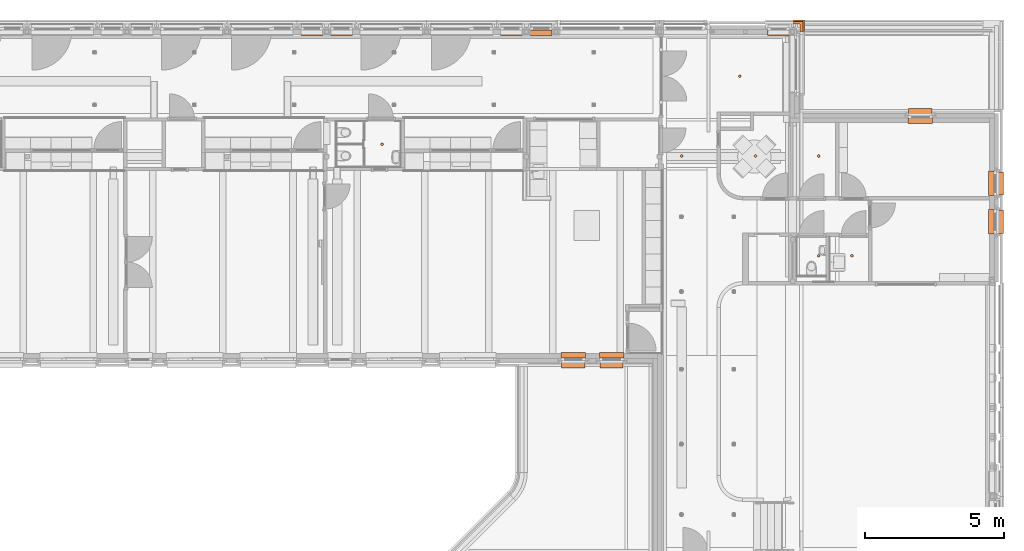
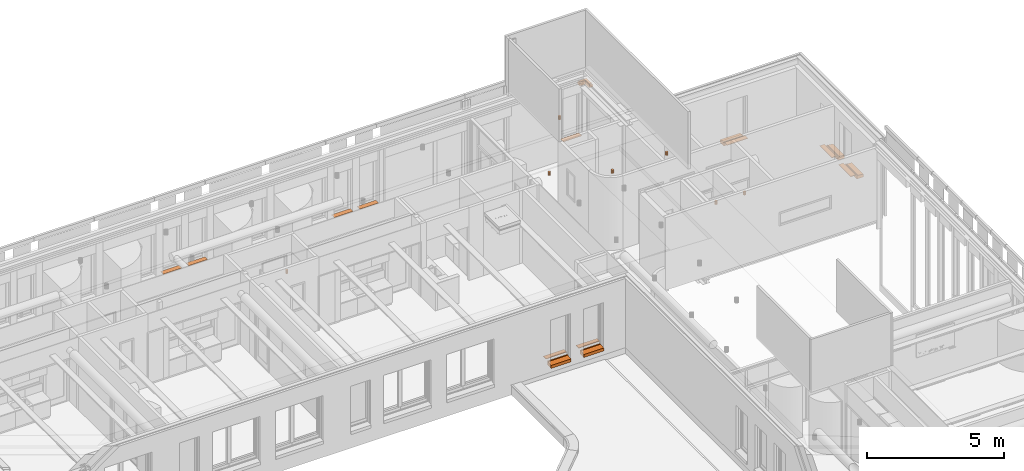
# One storey, part 125 of 128: 23 proxies.
"""IFC2X3 building model written with IfcOpenShell, lengths in millimetres."""

import ifcopenshell
import ifcopenshell.guid

model = None  # the IFC model being written
_history = None  # IfcOwnerHistory: only IFC2X3 demands one
_inside = {}  # id of a spatial element -> (the spatial element, [elements in it])
_under = {}  # id of a project, library or spatial element -> (it, [spatial elements below it])
_declared = {}  # id of a project -> (the project, [libraries it declares])
_typed = {}  # id of a type object -> (the type object, [elements of that type])
_made_of = {}  # id of a material, layer set ... -> (it, [elements and type objects made of it])


def new_model(schema):
    """Start an empty IFC model of exactly this schema.

    Asked for "IFC4X3", IfcOpenShell would pick the latest addendum, in which some entities
    have other attributes; the version numbers below select the first issue.
    IFC2X3 requires an IfcOwnerHistory on every rooted entity: one is made here for all.
    """
    global model, _history
    if schema == "IFC4X3":
        model = ifcopenshell.file(schema_version=(4, 3, 0, 0))
    else:
        model = ifcopenshell.file(schema=schema)
    _inside.clear()
    _under.clear()
    _declared.clear()
    _typed.clear()
    _made_of.clear()
    _history = None
    if model.schema == "IFC2X3":
        org = make("IfcOrganization", Name="unknown")
        user = make(
            "IfcPersonAndOrganization",
            ThePerson=make("IfcPerson", FamilyName="unknown"),
            TheOrganization=org,
        )
        app = make(
            "IfcApplication",
            ApplicationDeveloper=org,
            Version="unknown",
            ApplicationFullName="unknown",
            ApplicationIdentifier="unknown",
        )
        _history = make(
            "IfcOwnerHistory",
            OwningUser=user,
            OwningApplication=app,
            ChangeAction="ADDED",
            CreationDate=0,
        )
    return model


def make(cls, **values):
    """One entity of the class cls with the attributes given. An attribute that is None is left unset."""
    return model.create_entity(
        cls, **{name: value for name, value in values.items() if value is not None}
    )


def entity(cls, *values):
    """Any entity or typed value of the class cls, its attributes in the order of the schema. None: left unset."""
    e = model.create_entity(cls)
    for i, value in enumerate(values):
        if value is not None:
            e[i] = value
    return e


def rooted(cls, **values):
    """An entity with a GlobalId (a new one), such as an element, a storey or a relation."""
    return make(cls, GlobalId=ifcopenshell.guid.new(), OwnerHistory=_history, **values)


def si_unit(unit_type, name, prefix=None):
    """IfcSIUnit, for example si_unit("LENGTHUNIT", "METRE", prefix="MILLI")."""
    return make("IfcSIUnit", UnitType=unit_type, Prefix=prefix, Name=name)


def converted_unit(unit_type, name, factor, base, dimensions=None, offset=None):
    """IfcConversionBasedUnit, such as the inch: factor (a typed value) times the base unit."""
    return make(
        "IfcConversionBasedUnit"
        if offset is None
        else "IfcConversionBasedUnitWithOffset",
        ConversionOffset=offset,
        Dimensions=None
        if dimensions is None
        else entity("IfcDimensionalExponents", *dimensions),
        UnitType=unit_type,
        Name=name,
        ConversionFactor=make(
            "IfcMeasureWithUnit", ValueComponent=factor, UnitComponent=base
        ),
    )


def derived_unit(unit_type, elements):
    """IfcDerivedUnit: a product of units, each with its exponent."""
    return make(
        "IfcDerivedUnit",
        Elements=[
            make("IfcDerivedUnitElement", Unit=unit, Exponent=power)
            for unit, power in elements
        ],
        UnitType=unit_type,
    )


def assignment(units):
    """IfcUnitAssignment: the units of a project."""
    return None if units is None else make("IfcUnitAssignment", Units=units)


def point(xyz):
    """IfcCartesianPoint."""
    return None if xyz is None else make("IfcCartesianPoint", Coordinates=xyz)


def direction(xyz):
    """IfcDirection."""
    return None if xyz is None else make("IfcDirection", DirectionRatios=xyz)


def frame(location, z_axis=None, x_axis=None):
    """IfcAxis2Placement3D, a coordinate frame: its origin and axes. An axis left out is left unset."""
    return make(
        "IfcAxis2Placement3D",
        Location=point(location),
        Axis=direction(z_axis),
        RefDirection=direction(x_axis),
    )


def frame_2d(location, x_axis=None):
    """IfcAxis2Placement2D, a coordinate frame in the plane: its origin and x axis."""
    return make(
        "IfcAxis2Placement2D", Location=point(location), RefDirection=direction(x_axis)
    )


def origin():
    """The frame at (0, 0, 0) with its axes left unset."""
    return frame((0.0, 0.0, 0.0))


def origin_2d_with_axis():
    """The frame at (0, 0) in the plane with the x axis (1, 0) written out."""
    return frame_2d((0.0, 0.0), x_axis=(1.0, 0.0))


def place(relative_to, where):
    """IfcLocalPlacement: puts the frame where relative to a parent placement (None: the world)."""
    return make(
        "IfcLocalPlacement", PlacementRelTo=relative_to, RelativePlacement=where
    )


def context(
    kind, dimensions, precision=None, world=None, true_north=None, identifier=None
):
    """IfcGeometricRepresentationContext, for example the 3D "Model" context."""
    return make(
        "IfcGeometricRepresentationContext",
        ContextIdentifier=identifier,
        ContextType=kind,
        CoordinateSpaceDimension=dimensions,
        Precision=precision,
        WorldCoordinateSystem=world,
        TrueNorth=true_north,
    )


def subcontext(parent, identifier, kind, view, scale=None):
    """IfcGeometricRepresentationSubContext, for example "Body" below "Model"."""
    return make(
        "IfcGeometricRepresentationSubContext",
        ContextIdentifier=identifier,
        ContextType=kind,
        ParentContext=parent,
        TargetScale=scale,
        TargetView=view,
    )


def project(units=None, contexts=None):
    """IfcProject with its units and contexts."""
    return rooted(
        "IfcProject",
        Name="project",
        RepresentationContexts=contexts,
        UnitsInContext=assignment(units),
    )


def spatial(cls, under=None, at=None, **own):
    """A site, building, storey or space (cls), placed at a placement, below another one or the project."""
    s = rooted(cls, ObjectPlacement=at, **own)
    if under is not None:
        _under.setdefault(under.id(), (under, []))[1].append(s)
    return s


def polyline(points):
    """IfcPolyline through the points."""
    return make("IfcPolyline", Points=[point(p) for p in points])


def circle_curve(where, radius):
    """IfcCircle in the frame where."""
    return make("IfcCircle", Position=where, Radius=radius)


def parameter(value):
    """IfcParameterValue: where a trimmed curve begins or ends, as a parameter of its basis curve."""
    return model.create_entity("IfcParameterValue", value)


def trimmed(basis, trim1, trim2, sense, master):
    """IfcTrimmedCurve: the piece of a basis curve between two trims."""
    return make(
        "IfcTrimmedCurve",
        BasisCurve=basis,
        Trim1=trim1,
        Trim2=trim2,
        SenseAgreement=sense,
        MasterRepresentation=master,
    )


def segment(curve, same_sense, transition):
    """IfcCompositeCurveSegment."""
    return make(
        "IfcCompositeCurveSegment",
        Transition=transition,
        SameSense=same_sense,
        ParentCurve=curve,
    )


def composite_curve(segments, self_intersect=None):
    """IfcCompositeCurve: segments joined end to end."""
    return make("IfcCompositeCurve", Segments=segments, SelfIntersect=self_intersect)


def profile(cls, at=None, kind="AREA", **sizes):
    """A parametric profile (cls). Its sizes go by their IFC names, for example OverallWidth=200.0."""
    return make(cls, ProfileType=kind, Position=at, **sizes)


def rectangle(**sizes):
    """IfcRectangleProfileDef."""
    return profile("IfcRectangleProfileDef", **sizes)


def circle(**sizes):
    """IfcCircleProfileDef."""
    return profile("IfcCircleProfileDef", **sizes)


def outline(outer, holes=None, kind="AREA"):
    """IfcArbitraryClosedProfileDef: a profile drawn as a closed curve; with holes, ...WithVoids."""
    if holes is None:
        return make("IfcArbitraryClosedProfileDef", ProfileType=kind, OuterCurve=outer)
    return make(
        "IfcArbitraryProfileDefWithVoids",
        ProfileType=kind,
        OuterCurve=outer,
        InnerCurves=holes,
    )


def extrude(swept, where, along, depth):
    """IfcExtrudedAreaSolid: the profile swept, set in the frame where, extruded along a direction by depth."""
    return make(
        "IfcExtrudedAreaSolid",
        SweptArea=swept,
        Position=where,
        ExtrudedDirection=direction(along),
        Depth=depth,
    )


def faces_of(points, faces, orient=None, outer=None):
    """IfcFace entities. A face is a list of loops; a loop is a list of indices into points, from 0.

    orient and outer hold one flag for each loop. By default every Orientation is true, the
    first loop of a face is its IfcFaceOuterBound and the others are IfcFaceBound.
    """
    made = []
    for i, loops in enumerate(faces):
        bounds = []
        for j, loop in enumerate(loops):
            is_outer = j == 0 if outer is None else outer[i][j]
            bounds.append(
                make(
                    "IfcFaceOuterBound" if is_outer else "IfcFaceBound",
                    Bound=make("IfcPolyLoop", Polygon=[points[k] for k in loop]),
                    Orientation=True if orient is None else orient[i][j],
                )
            )
        made.append(make("IfcFace", Bounds=bounds))
    return made


def faceted_brep(points, faces, orient=None, outer=None, voids=None):
    """IfcFacetedBrep: a solid bounded by flat faces; with voids (closed shells), ...WithVoids."""
    shared = [point(p) for p in points]
    hull = make("IfcClosedShell", CfsFaces=faces_of(shared, faces, orient, outer))
    if voids is None:
        return make("IfcFacetedBrep", Outer=hull)
    return make(
        "IfcFacetedBrepWithVoids",
        Outer=hull,
        Voids=[
            make(cls, CfsFaces=faces_of(shared, fs, o, b)) for cls, fs, o, b in voids
        ],
    )


def shape(context_of_items, identifier, shape_type, items):
    """IfcShapeRepresentation: the items that make up one representation, for example the "Body"."""
    return make(
        "IfcShapeRepresentation",
        ContextOfItems=context_of_items,
        RepresentationIdentifier=identifier,
        RepresentationType=shape_type,
        Items=items,
    )


def source(mapping_origin, context_of_items, identifier, shape_type, items):
    """IfcRepresentationMap: a shape defined once, which mapped items show again and again."""
    return make(
        "IfcRepresentationMap",
        MappingOrigin=mapping_origin,
        MappedRepresentation=shape(context_of_items, identifier, shape_type, items),
    )


def transform(
    local_origin,
    x_axis=None,
    y_axis=None,
    z_axis=None,
    scale=None,
    scale2=None,
    scale3=None,
    uniform=True,
):
    """IfcCartesianTransformationOperator3D, or its non-uniform kind. x_axis, y_axis, z_axis: its Axis1, 2, 3."""
    if uniform:
        return make(
            "IfcCartesianTransformationOperator3D",
            Axis1=direction(x_axis),
            Axis2=direction(y_axis),
            LocalOrigin=point(local_origin),
            Scale=scale,
            Axis3=direction(z_axis),
        )
    return make(
        "IfcCartesianTransformationOperator3DnonUniform",
        Axis1=direction(x_axis),
        Axis2=direction(y_axis),
        LocalOrigin=point(local_origin),
        Scale=scale,
        Axis3=direction(z_axis),
        Scale2=scale2,
        Scale3=scale3,
    )


def mapped(mapping_source, mapping_target):
    """IfcMappedItem: shows the shape of a source again, moved by a transform."""
    return make(
        "IfcMappedItem", MappingSource=mapping_source, MappingTarget=mapping_target
    )


def material(Name=None, Category=None):
    """IfcMaterial."""
    return make("IfcMaterial", Name=Name, Category=Category)


def made_of(thing, what):
    """Note that an element or type object is made of a material, layer set ...; save() writes the relation."""
    if what is not None:
        _made_of.setdefault(what.id(), (what, []))[1].append(thing)
    return thing


def type_object(cls, material=None, **own):
    """A type object (cls), such as IfcWallType, which elements share."""
    return made_of(rooted(cls, **own), material)


def type_shapes(of_type, sources):
    """Give a type object the sources (RepresentationMaps) that its elements show as mapped items."""
    of_type.RepresentationMaps = sources


def element(
    cls,
    number,
    at=None,
    inside=None,
    cuts=None,
    type_object=None,
    material=None,
    context=None,
    identifier="Body",
    shape_type=None,
    held_by="IfcProductDefinitionShape",
    body=None,
    shapes=None,
    **own,
):
    """One element of the class cls, such as IfcWall. Its Tag is "e" and its number.

    at: its placement. inside: the storey or other place that contains it. cuts: it is an
    opening in that element (IfcRelVoidsElement). A single representation is given by context,
    identifier, shape_type and body (its items); several are given by shapes. held_by: the class
    of the entity that holds the representations. save() writes the other relations.
    """
    e = rooted(cls, Tag="e%d" % number, ObjectPlacement=at, **own)
    if body is not None:
        shapes = [shape(context, identifier, shape_type, body)]
    if shapes is not None:
        e.Representation = make(held_by, Representations=shapes)
    if inside is not None:
        _inside.setdefault(inside.id(), (inside, []))[1].append(e)
    if cuts is not None:
        rooted(
            "IfcRelVoidsElement", RelatingBuildingElement=cuts, RelatedOpeningElement=e
        )
    if type_object is not None:
        _typed.setdefault(type_object.id(), (type_object, []))[1].append(e)
    return made_of(e, material)


def aggregate(whole, parts):
    """IfcRelAggregates: a whole, such as a stair, and the parts it consists of."""
    return rooted("IfcRelAggregates", RelatingObject=whole, RelatedObjects=parts)


def save(model, path):
    """Write the relations noted so far, then the file.

    IfcRelAggregates (storeys below a building ...), IfcRelContainedInSpatialStructure (elements
    in a storey), IfcRelDefinesByType, IfcRelAssociatesMaterial and IfcRelDeclares: one each for
    every whole, place, type object, material and project.
    """
    for whole, parts in _under.values():
        aggregate(whole, parts)
    for where, things in _inside.values():
        rooted(
            "IfcRelContainedInSpatialStructure",
            RelatedElements=things,
            RelatingStructure=where,
        )
    for kind, things in _typed.values():
        rooted("IfcRelDefinesByType", RelatedObjects=things, RelatingType=kind)
    for what, things in _made_of.values():
        rooted("IfcRelAssociatesMaterial", RelatedObjects=things, RelatingMaterial=what)
    for by, libraries in _declared.values():
        rooted("IfcRelDeclares", RelatingContext=by, RelatedDefinitions=libraries)
    model.write(path)


model = new_model("IFC2X3")

# Units and contexts
model_context = context("Model", 3, precision=0.01, world=origin(), true_north=direction((6.123031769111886e-17, 1.0)))
body_context = subcontext(model_context, "Body", "Model", "MODEL_VIEW")
ifc_project = project(units=[si_unit("LENGTHUNIT", "METRE", prefix="MILLI"), si_unit("AREAUNIT", "SQUARE_METRE"), si_unit("VOLUMEUNIT", "CUBIC_METRE"), converted_unit("PLANEANGLEUNIT", "DEGREE", entity("IfcRatioMeasure", 0.017453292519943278), si_unit("PLANEANGLEUNIT", "RADIAN"), dimensions=[0, 0, 0, 0, 0, 0, 0]), si_unit("MASSUNIT", "GRAM", prefix="KILO"), derived_unit("MASSDENSITYUNIT", [(si_unit("MASSUNIT", "GRAM", prefix="KILO"), 1), (si_unit("LENGTHUNIT", "METRE"), -3)]), derived_unit("IONCONCENTRATIONUNIT", [(si_unit("MASSUNIT", "GRAM", prefix="KILO"), 1), (si_unit("LENGTHUNIT", "METRE"), -3)]), derived_unit("MOMENTOFINERTIAUNIT", [(si_unit("LENGTHUNIT", "METRE"), 4)]), si_unit("TIMEUNIT", "SECOND"), si_unit("FREQUENCYUNIT", "HERTZ"), si_unit("THERMODYNAMICTEMPERATUREUNIT", "DEGREE_CELSIUS"), derived_unit("THERMALTRANSMITTANCEUNIT", [(si_unit("MASSUNIT", "GRAM", prefix="KILO"), 1), (si_unit("THERMODYNAMICTEMPERATUREUNIT", "KELVIN"), -1), (si_unit("TIMEUNIT", "SECOND"), -3)]), derived_unit("THERMALCONDUCTANCEUNIT", [(si_unit("MASSUNIT", "GRAM", prefix="KILO"), 1), (si_unit("THERMODYNAMICTEMPERATUREUNIT", "KELVIN"), -1), (si_unit("TIMEUNIT", "SECOND"), -3), (si_unit("LENGTHUNIT", "METRE"), 1)]), derived_unit("VOLUMETRICFLOWRATEUNIT", [(si_unit("LENGTHUNIT", "METRE"), 3), (si_unit("TIMEUNIT", "SECOND"), -1)]), derived_unit("MASSFLOWRATEUNIT", [(si_unit("MASSUNIT", "GRAM", prefix="KILO"), 1), (si_unit("TIMEUNIT", "SECOND"), -1)]), derived_unit("ROTATIONALFREQUENCYUNIT", [(si_unit("TIMEUNIT", "SECOND"), -1)]), si_unit("ELECTRICCURRENTUNIT", "AMPERE"), si_unit("ELECTRICVOLTAGEUNIT", "VOLT"), si_unit("POWERUNIT", "WATT"), si_unit("FORCEUNIT", "NEWTON", prefix="KILO"), si_unit("ILLUMINANCEUNIT", "LUX"), si_unit("LUMINOUSFLUXUNIT", "LUMEN"), si_unit("LUMINOUSINTENSITYUNIT", "CANDELA"), derived_unit("USERDEFINED", [(si_unit("MASSUNIT", "GRAM", prefix="KILO"), -1), (si_unit("LENGTHUNIT", "METRE"), -2), (si_unit("TIMEUNIT", "SECOND"), 3), (si_unit("LUMINOUSFLUXUNIT", "LUMEN"), 1)]), derived_unit("USERDEFINED", [(si_unit("MASSUNIT", "GRAM", prefix="KILO"), 1), (si_unit("TIMEUNIT", "SECOND"), -3), (si_unit("LENGTHUNIT", "METRE"), 3), (si_unit("ELECTRICCURRENTUNIT", "AMPERE"), -2)]), derived_unit("SOUNDPOWERUNIT", [(si_unit("MASSUNIT", "GRAM", prefix="KILO"), 1), (si_unit("TIMEUNIT", "SECOND"), -3), (si_unit("LENGTHUNIT", "METRE"), 2)]), derived_unit("SOUNDPRESSUREUNIT", [(si_unit("MASSUNIT", "GRAM", prefix="KILO"), 1), (si_unit("LENGTHUNIT", "METRE"), -1), (si_unit("TIMEUNIT", "SECOND"), -2)]), derived_unit("LINEARVELOCITYUNIT", [(si_unit("LENGTHUNIT", "METRE"), 1), (si_unit("TIMEUNIT", "SECOND"), -1)]), si_unit("PRESSUREUNIT", "PASCAL"), derived_unit("USERDEFINED", [(si_unit("MASSUNIT", "GRAM", prefix="KILO"), 1), (si_unit("LENGTHUNIT", "METRE"), -2), (si_unit("TIMEUNIT", "SECOND"), -2)]), derived_unit("LINEARFORCEUNIT", [(si_unit("MASSUNIT", "GRAM", prefix="KILO"), 1), (si_unit("TIMEUNIT", "SECOND"), -2)]), derived_unit("PLANARFORCEUNIT", [(si_unit("MASSUNIT", "GRAM", prefix="KILO"), 1), (si_unit("LENGTHUNIT", "METRE"), -1), (si_unit("TIMEUNIT", "SECOND"), -2)]), derived_unit("SPECIFICHEATCAPACITYUNIT", [(si_unit("THERMODYNAMICTEMPERATUREUNIT", "KELVIN"), -1), (si_unit("LENGTHUNIT", "METRE"), 2), (si_unit("TIMEUNIT", "SECOND"), -2)]), derived_unit("HEATINGVALUEUNIT", [(si_unit("LENGTHUNIT", "METRE"), 2), (si_unit("TIMEUNIT", "SECOND"), -2)]), derived_unit("VAPORPERMEABILITYUNIT", [(si_unit("LENGTHUNIT", "METRE"), -1), (si_unit("TIMEUNIT", "SECOND"), 1)]), derived_unit("DYNAMICVISCOSITYUNIT", [(si_unit("MASSUNIT", "GRAM", prefix="KILO"), 1), (si_unit("TIMEUNIT", "SECOND"), -1), (si_unit("LENGTHUNIT", "METRE"), -1)]), derived_unit("THERMALEXPANSIONCOEFFICIENTUNIT", [(si_unit("THERMODYNAMICTEMPERATUREUNIT", "KELVIN"), -1)]), derived_unit("MODULUSOFELASTICITYUNIT", [(si_unit("MASSUNIT", "GRAM", prefix="KILO"), 1), (si_unit("LENGTHUNIT", "METRE"), -1), (si_unit("TIMEUNIT", "SECOND"), -2)]), derived_unit("ISOTHERMALMOISTURECAPACITYUNIT", [(si_unit("LENGTHUNIT", "METRE"), 3), (si_unit("MASSUNIT", "GRAM", prefix="KILO"), -1)]), derived_unit("MOISTUREDIFFUSIVITYUNIT", [(si_unit("TIMEUNIT", "SECOND"), -1), (si_unit("LENGTHUNIT", "METRE"), 2)])], contexts=[model_context])

# Site, building, storey, space
site_placement = place(None, frame((0.0, 300.0, 0.0)))
site = spatial("IfcSite", under=ifc_project, at=site_placement, Name="<Kadastrale nummers>", CompositionType="ELEMENT")
building_placement = place(site_placement, origin())
building = spatial("IfcBuilding", under=site, at=building_placement, CompositionType="ELEMENT")
storey_placement = place(building_placement, frame((0.0, 0.0, 3560.0000331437)))
storey = spatial("IfcBuildingStorey", under=building, at=storey_placement, Name="01 eerste verdieping", CompositionType="ELEMENT", Elevation=3560.0000331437)
space_1_placement = place(storey_placement, origin())
space_1 = spatial("IfcSpace", under=storey, at=space_1_placement, Name="1.14", CompositionType="ELEMENT", InteriorOrExteriorSpace="INTERNAL")

# Proxy
ifc_material_1 = material(Name="<Unnamed>")
building_element_proxy_type_1 = type_object("IfcBuildingElementProxyType", Name="63_DAT_Spotverlichting:2400", PredefinedType="NOTDEFINED", material=ifc_material_1)
shared_shape_1 = source(origin(), body_context, "Body", "SweptSolid", [
    extrude(circle(Radius=50.0, at=frame_2d((0.0, -8.077722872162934e-14), x_axis=(1.0, 0.0))), frame((0.0, 0.0, 2250.0)), (0.0, 0.0, 1.0), 150.0),
])
type_shapes(building_element_proxy_type_1, [shared_shape_1])
proxy_1_placement = place(space_1_placement, frame((40061.6528066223, 45320.48301030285, 90.00000187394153)))
element("IfcBuildingElementProxy", 1, at=proxy_1_placement, inside=space_1, type_object=building_element_proxy_type_1, material=ifc_material_1, Name="63_DAT_Spotverlichting:2400", ObjectType="63_DAT_Spotverlichting:2400", context=body_context, shape_type="MappedRepresentation", body=[
    mapped(shared_shape_1, transform((0.0, 0.0, 0.0), scale=1.0)),
])

# Space
space_2_placement = place(storey_placement, origin())
space_2 = spatial("IfcSpace", under=storey, at=space_2_placement, Name="1.15", CompositionType="ELEMENT", InteriorOrExteriorSpace="INTERNAL")

# Proxy
proxy_2_placement = place(space_2_placement, frame((42341.6528066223, 45320.48301030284, 90.00000187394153)))
element("IfcBuildingElementProxy", 2, at=proxy_2_placement, inside=space_2, type_object=building_element_proxy_type_1, material=ifc_material_1, Name="63_DAT_Spotverlichting:2400", ObjectType="63_DAT_Spotverlichting:2400", context=body_context, shape_type="MappedRepresentation", body=[
    mapped(shared_shape_1, transform((0.0, 0.0, 0.0), scale=1.0)),
])

# Space
space_3_placement = place(storey_placement, origin())
space_3 = spatial("IfcSpace", under=storey, at=space_3_placement, Name="1.18", CompositionType="ELEMENT", InteriorOrExteriorSpace="INTERNAL")

# Proxy
proxy_3_placement = place(space_3_placement, frame((42341.652806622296, 41720.48301030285, 90.00000187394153)))
element("IfcBuildingElementProxy", 3, at=proxy_3_placement, inside=space_3, type_object=building_element_proxy_type_1, material=ifc_material_1, Name="63_DAT_Spotverlichting:2400", ObjectType="63_DAT_Spotverlichting:2400", context=body_context, shape_type="MappedRepresentation", body=[
    mapped(shared_shape_1, transform((0.0, 0.0, 0.0), scale=1.0)),
])

# Space
space_4_placement = place(storey_placement, origin())
space_4 = spatial("IfcSpace", under=storey, at=space_4_placement, Name="1.19", CompositionType="ELEMENT", InteriorOrExteriorSpace="INTERNAL")

# Proxy
proxy_4_placement = place(space_4_placement, frame((43541.65280662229, 41720.48301030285, 90.00000187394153)))
element("IfcBuildingElementProxy", 4, at=proxy_4_placement, inside=space_4, type_object=building_element_proxy_type_1, material=ifc_material_1, Name="63_DAT_Spotverlichting:2400", ObjectType="63_DAT_Spotverlichting:2400", context=body_context, shape_type="MappedRepresentation", body=[
    mapped(shared_shape_1, transform((0.0, 0.0, 0.0), scale=1.0)),
])

# Space
space_5_placement = place(storey_placement, origin())
space_5 = spatial("IfcSpace", under=storey, at=space_5_placement, Name="1.08", CompositionType="ELEMENT", InteriorOrExteriorSpace="INTERNAL")

# Proxies
building_element_proxy_type_2 = type_object("IfcBuildingElementProxyType", Name="63_DAT_Spotverlichting:2400", PredefinedType="NOTDEFINED", material=ifc_material_1)
shared_shape_2 = source(origin(), body_context, "Body", "SweptSolid", [
    extrude(circle(Radius=50.0, at=frame_2d((0.0, -2.251062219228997e-13), x_axis=(1.0, 0.0))), frame((0.0, 0.0, 2250.0)), (0.0, 0.0, 1.0), 150.0),
])
type_shapes(building_element_proxy_type_2, [shared_shape_2])
proxy_5_placement = place(space_5_placement, frame((26600.00068836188, 45745.0, 90.00000187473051), z_axis=(0.0, 0.0, 1.0), x_axis=(0.0, -1.0, 0.0)))
element("IfcBuildingElementProxy", 5, at=proxy_5_placement, inside=space_5, type_object=building_element_proxy_type_2, material=ifc_material_1, Name="63_DAT_Spotverlichting:2400", ObjectType="63_DAT_Spotverlichting:2400", context=body_context, shape_type="MappedRepresentation", body=[
    mapped(shared_shape_2, transform((0.0, 0.0, 0.0), scale=1.0)),
])
building_element_proxy_type_3 = type_object("IfcBuildingElementProxyType", Name="63_DAT_Spotverlichting:3240,0", PredefinedType="NOTDEFINED", material=ifc_material_1)
shared_shape_3 = source(origin(), body_context, "Body", "SweptSolid", [
    extrude(circle(Radius=50.0, at=frame_2d((0.0, -8.077722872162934e-14), x_axis=(1.0, 0.0))), frame((0.0, 0.0, 3090.0)), (0.0, 0.0, 1.0), 149.99999999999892),
])
type_shapes(building_element_proxy_type_3, [shared_shape_3])
for number, where, name in (
    (6, (39500.0, 48200.0, 90.00000187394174), "63_DAT_Spotverlichting:3240,0"),
    (7, (37400.0, 45320.48301030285, 90.00000187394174), "63_DAT_Spotverlichting:3240,0"),
):
    element("IfcBuildingElementProxy", number, at=place(storey_placement, frame(where)), inside=storey, type_object=building_element_proxy_type_3, material=ifc_material_1, Name=name, ObjectType="63_DAT_Spotverlichting:3240,0", context=body_context, shape_type="MappedRepresentation", body=[
        mapped(shared_shape_3, transform((0.0, 0.0, 0.0), scale=1.0)),
    ])
ifc_material_2 = material(Name="ISR_Beton_prefab")
building_element_proxy_type_4 = type_object("IfcBuildingElementProxyType", Name="29_DAT_Prefab betonband afgeschuind_Hoek oplossing:29_DAT_Prefab betonband afgeschuind_Hoek oplossing", PredefinedType="NOTDEFINED", material=ifc_material_2)
shared_shape_4 = source(origin(), body_context, "Body", "Brep", [
    faceted_brep([(-150.0, -422.0, 175.0), (-150.0, -422.0, 0.0), (0.0, -422.0, 0.0), (0.0, -422.0, 102.49999999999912), (-50.0, -422.0, 112.49999999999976), (-50.0, -422.0, 175.0), (-150.0, -150.0, 0.0), (-392.0, -150.0, 0.0), (-392.0, 0.0, 0.0), (0.0, 0.0, 0.0), (0.0, 0.0, 102.4999999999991), (-50.0, -50.0, 112.49999999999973), (-50.0, -50.0, 175.0), (-392.0, -50.0, 175.0), (-392.0, -150.0, 175.0), (-150.0, -150.0, 175.0), (-392.0, -50.0, 112.49999999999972), (-392.0, 0.0, 102.4999999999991)], [[[0, 1, 2, 3, 4, 5]], [[2, 1, 6, 7, 8, 9]], [[3, 2, 9, 10]], [[4, 3, 10, 11]], [[5, 4, 11, 12]], [[0, 5, 12, 13, 14, 15]], [[0, 15, 6, 1]], [[7, 14, 13, 16, 17, 8]], [[10, 9, 8, 17]], [[11, 10, 17, 16]], [[12, 11, 16, 13]], [[6, 15, 14, 7]]]),
])
type_shapes(building_element_proxy_type_4, [shared_shape_4])
proxy_6_placement = place(storey_placement, frame((41825.0, 50225.0, 2839.9999668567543)))
element("IfcBuildingElementProxy", 8, at=proxy_6_placement, inside=storey, type_object=building_element_proxy_type_4, material=ifc_material_2, Name="29_DAT_Prefab betonband afgeschuind_Hoek oplossing:29_DAT_Prefab betonband afgeschuind_Hoek oplossing", ObjectType="29_DAT_Prefab betonband afgeschuind_Hoek oplossing:29_DAT_Prefab betonband afgeschuind_Hoek oplossing", context=body_context, shape_type="MappedRepresentation", body=[
    mapped(shared_shape_4, transform((0.0, 0.0, 0.0), scale=1.0)),
])

# Space
space_6_placement = place(storey_placement, origin())
space_6 = spatial("IfcSpace", under=storey, at=space_6_placement, Name="1.11", CompositionType="ELEMENT", InteriorOrExteriorSpace="INTERNAL")

# Proxies
ifc_material_3 = material(Name="e1_natuursteen")
building_element_proxy_type_5 = type_object("IfcBuildingElementProxyType", Name="NLRS_31_GM_WPB_vensterbank natuursteen -SH_gen_ASN:200x18", PredefinedType="USERDEFINED", material=ifc_material_3)
shared_shape_5 = source(origin(), body_context, "Body", "SweptSolid", [
    extrude(rectangle(XDim=200.0, YDim=789.9989494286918, at=origin_2d_with_axis()), frame((0.0, -100.0, 0.0), z_axis=(0.0, 0.0, 1.0), x_axis=(0.0, -1.0, 0.0)), (0.0, 0.0, 1.0), 17.999999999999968),
])
type_shapes(building_element_proxy_type_5, [shared_shape_5])
for number, where, z_axis, x_axis, name in (
    (9, (31265.000525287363, 49668.0, 920.0000018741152), (0.0, 0.0, 1.0), (-1.0, 0.0, 0.0), "NLRS_31_GM_WPB_vensterbank natuursteen -SH_gen_ASN:200x18"),
    (10, (25135.00052528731, 49668.0, 920.0000018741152), (0.0, 0.0, 1.0), (-1.0, 0.0, 0.0), "NLRS_31_GM_WPB_vensterbank natuursteen -SH_gen_ASN:200x18"),
    (11, (24065.00052528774, 49668.0, 920.0000018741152), (0.0, 0.0, 1.0), (-1.0, 0.0, 0.0), "NLRS_31_GM_WPB_vensterbank natuursteen -SH_gen_ASN:200x18"),
    (12, (32335.000525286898, 49668.0, 920.0000018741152), (0.0, 0.0, 1.0), (-1.0, 0.0, 0.0), "NLRS_31_GM_WPB_vensterbank natuursteen -SH_gen_ASN:200x18"),
):
    element("IfcBuildingElementProxy", number, at=place(space_6_placement, frame(where, z_axis=z_axis, x_axis=x_axis)), inside=space_6, type_object=building_element_proxy_type_5, material=ifc_material_3, Name=name, ObjectType="NLRS_31_GM_WPB_vensterbank natuursteen -SH_gen_ASN:200x18", context=body_context, shape_type="MappedRepresentation", body=[
        mapped(shared_shape_5, transform((0.0, 0.0, 0.0), scale=1.0)),
    ])
building_element_proxy_type_6 = type_object("IfcBuildingElementProxyType", Name="NLRS_31_GM_WPB_vensterbank natuursteen -SH_gen_ASN:200x18", PredefinedType="USERDEFINED", material=ifc_material_3)
shared_shape_6 = source(origin(), body_context, "Body", "SweptSolid", [
    extrude(rectangle(XDim=200.0, YDim=880.0000000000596, at=origin_2d_with_axis()), frame((0.0, -100.0, 0.0), z_axis=(0.0, 0.0, 1.0), x_axis=(0.0, -1.0, 0.0)), (0.0, 0.0, 1.0), 17.999999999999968),
])
type_shapes(building_element_proxy_type_6, [shared_shape_6])
for number, where, z_axis, x_axis, name in (
    (13, (33494.0, 38030.0, 920.0000018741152), (0.0, 0.0, 1.0), (-1.0, 0.0, 0.0), "NLRS_31_GM_WPB_vensterbank natuursteen -SH_gen_ASN:200x18"),
    (14, (34874.0, 38030.0, 920.0000018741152), (0.0, 0.0, 1.0), (-1.0, 0.0, 0.0), "NLRS_31_GM_WPB_vensterbank natuursteen -SH_gen_ASN:200x18"),
    (15, (48670.0, 42952.12500266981, 920.0000018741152), (0.0, 0.0, 1.0), (0.0, -1.0, 0.0), "NLRS_31_GM_WPB_vensterbank natuursteen -SH_gen_ASN:200x18"),
    (16, (48670.0, 44332.12500266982, 920.0000018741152), (0.0, 0.0, 1.0), (0.0, -1.0, 0.0), "NLRS_31_GM_WPB_vensterbank natuursteen -SH_gen_ASN:200x18"),
):
    element("IfcBuildingElementProxy", number, at=place(storey_placement, frame(where, z_axis=z_axis, x_axis=x_axis)), inside=storey, type_object=building_element_proxy_type_6, material=ifc_material_3, Name=name, ObjectType="NLRS_31_GM_WPB_vensterbank natuursteen -SH_gen_ASN:200x18", context=body_context, shape_type="MappedRepresentation", body=[
        mapped(shared_shape_6, transform((0.0, 0.0, 0.0), scale=1.0)),
    ])
proxy_7_placement = place(storey_placement, frame((46010.0, 46695.0, 920.0000018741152)))
element("IfcBuildingElementProxy", 17, at=proxy_7_placement, inside=storey, type_object=building_element_proxy_type_6, material=ifc_material_3, Name="NLRS_31_GM_WPB_vensterbank natuursteen -SH_gen_ASN:200x18", ObjectType="NLRS_31_GM_WPB_vensterbank natuursteen -SH_gen_ASN:200x18", context=body_context, shape_type="MappedRepresentation", body=[
    mapped(shared_shape_6, transform((0.0, 0.0, 0.0), scale=1.0)),
])
building_element_proxy_type_7 = type_object("IfcBuildingElementProxyType", Name="29_DAT_Prefab betonnen waterslag kort:29_DAT_Prefab betonnen waterslag kort", PredefinedType="NOTDEFINED", material=ifc_material_2)
shared_shape_7 = source(origin(), body_context, "Body", "SweptSolid", [
    extrude(outline(composite_curve([segment(polyline([(-95.62465990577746, -137.5), (79.37534009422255, -137.5)]), True, "CONTINUOUS"), segment(polyline([(79.37534009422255, -137.5), (79.37534009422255, 107.49999999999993)]), True, "CONTINUOUS"), segment(trimmed(circle_curve(frame_2d((79.37534009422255, 112.49999999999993), x_axis=(0.0, 1.0)), 5.000000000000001), [parameter(4.0711099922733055e-13)], [parameter(180.00000000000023)], True, "PARAMETER"), False, "CONTINUOUS"), segment(polyline([(79.37534009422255, 117.49999999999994), (79.37534009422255, 132.5)]), True, "CONTINUOUS"), segment(polyline([(79.37534009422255, 132.5), (-52.6273806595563, 132.5)]), True, "CONTINUOUS"), segment(polyline([(-52.62738065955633, 132.50000000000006), (-73.62465990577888, -107.49999999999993)]), True, "CONTINUOUS"), segment(polyline([(-73.62465990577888, -107.49999999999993), (-95.62465990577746, -107.49999999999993)]), True, "CONTINUOUS"), segment(polyline([(-95.62465990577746, -107.49999999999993), (-95.62465990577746, -137.5)]), True, "CONTINUOUS")], self_intersect=False)), frame((0.0, -82.50000000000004, -95.62465990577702), z_axis=(1.0, 0.0, 0.0), x_axis=(0.0, 0.0, -1.0)), (0.0, 0.0, 1.0), 840.0000000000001),
])
type_shapes(building_element_proxy_type_7, [shared_shape_7])
for number, where, z_axis, x_axis, name in (
    (18, (33914.0, 37735.0, 890.0000018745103), (0.0, 0.0, 1.0), (-1.0, 0.0, 0.0), "29_DAT_Prefab betonnen waterslag kort:29_DAT_Prefab betonnen waterslag kort"),
    (19, (35294.0, 37735.0, 890.0000018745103), (0.0, 0.0, 1.0), (-1.0, 0.0, 0.0), "29_DAT_Prefab betonnen waterslag kort:29_DAT_Prefab betonnen waterslag kort"),
    (20, (48965.0, 43372.12500266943, 890.0000018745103), (0.0, 0.0, 1.0), (0.0, -1.0, 0.0), "29_DAT_Prefab betonnen waterslag kort:29_DAT_Prefab betonnen waterslag kort"),
    (21, (48965.0, 44752.12500266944, 890.0000018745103), (0.0, 0.0, 1.0), (0.0, -1.0, 0.0), "29_DAT_Prefab betonnen waterslag kort:29_DAT_Prefab betonnen waterslag kort"),
):
    element("IfcBuildingElementProxy", number, at=place(storey_placement, frame(where, z_axis=z_axis, x_axis=x_axis)), inside=storey, type_object=building_element_proxy_type_7, material=ifc_material_2, Name=name, ObjectType="29_DAT_Prefab betonnen waterslag kort:29_DAT_Prefab betonnen waterslag kort", context=body_context, shape_type="MappedRepresentation", body=[
        mapped(shared_shape_7, transform((0.0, 0.0, 0.0), scale=1.0)),
    ])
proxy_8_placement = place(storey_placement, frame((45590.0, 46990.0, 890.0000018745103)))
element("IfcBuildingElementProxy", 22, at=proxy_8_placement, inside=storey, type_object=building_element_proxy_type_7, material=ifc_material_2, Name="29_DAT_Prefab betonnen waterslag kort:29_DAT_Prefab betonnen waterslag kort", ObjectType="29_DAT_Prefab betonnen waterslag kort:29_DAT_Prefab betonnen waterslag kort", context=body_context, shape_type="MappedRepresentation", body=[
    mapped(shared_shape_7, transform((0.0, 0.0, 0.0), scale=1.0)),
])

# Space
space_7_placement = place(storey_placement, origin())
space_7 = spatial("IfcSpace", under=storey, at=space_7_placement, Name="1.13", CompositionType="ELEMENT", InteriorOrExteriorSpace="INTERNAL")

# Proxy
building_element_proxy_type_8 = type_object("IfcBuildingElementProxyType", Name="NLRS_31_GM_WPB_vensterbank natuursteen -SH_gen_ASN:200x18", PredefinedType="USERDEFINED", material=ifc_material_3)
shared_shape_8 = source(origin(), body_context, "Body", "SweptSolid", [
    extrude(rectangle(XDim=200.0, YDim=792.0000000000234, at=origin_2d_with_axis()), frame((0.0, -100.0, 0.0), z_axis=(0.0, 0.0, 1.0), x_axis=(0.0, -1.0, 0.0)), (0.0, 0.0, 1.0), 17.999999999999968),
])
type_shapes(building_element_proxy_type_8, [shared_shape_8])
proxy_9_placement = place(space_7_placement, frame((40894.0, 49668.0, 920.0000018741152), z_axis=(0.0, 0.0, 1.0), x_axis=(-1.0, 0.0, 0.0)))
element("IfcBuildingElementProxy", 23, at=proxy_9_placement, inside=space_7, type_object=building_element_proxy_type_8, material=ifc_material_3, Name="NLRS_31_GM_WPB_vensterbank natuursteen -SH_gen_ASN:200x18", ObjectType="NLRS_31_GM_WPB_vensterbank natuursteen -SH_gen_ASN:200x18", context=body_context, shape_type="MappedRepresentation", body=[
    mapped(shared_shape_8, transform((0.0, 0.0, 0.0), scale=1.0)),
])

save(model, "model.ifc")
